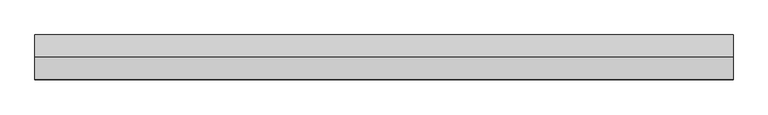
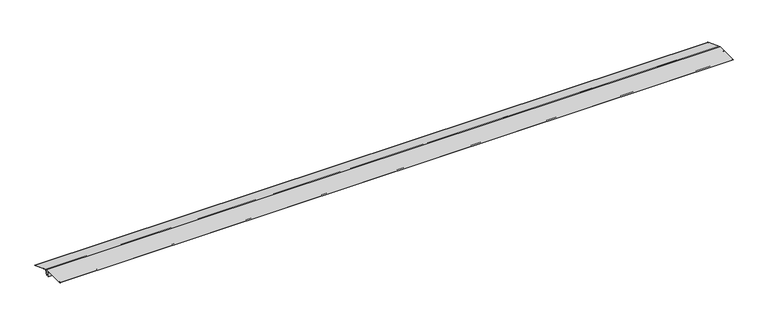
"""IFC4 building model written with IfcOpenShell, lengths in millimetres: proxy geometry, ATELIERS 3S_PARISIENNE 1000_VENTILATED DOUBLE ROOF RIDGE : ATELIERS 3S_PARISIENNE 1000_VENTILATED DOUBLE ROOF RIDGE."""

import ifcopenshell
import ifcopenshell.guid

model = None  # the IFC model being written
_history = None  # IfcOwnerHistory: only IFC2X3 demands one
_inside = {}  # id of a spatial element -> (the spatial element, [elements in it])
_under = {}  # id of a project, library or spatial element -> (it, [spatial elements below it])
_declared = {}  # id of a project -> (the project, [libraries it declares])
_typed = {}  # id of a type object -> (the type object, [elements of that type])
_made_of = {}  # id of a material, layer set ... -> (it, [elements and type objects made of it])


def new_model(schema):
    """Start an empty IFC model of exactly this schema.

    Asked for "IFC4X3", IfcOpenShell would pick the latest addendum, in which some entities
    have other attributes; the version numbers below select the first issue.
    IFC2X3 requires an IfcOwnerHistory on every rooted entity: one is made here for all.
    """
    global model, _history
    if schema == "IFC4X3":
        model = ifcopenshell.file(schema_version=(4, 3, 0, 0))
    else:
        model = ifcopenshell.file(schema=schema)
    _inside.clear()
    _under.clear()
    _declared.clear()
    _typed.clear()
    _made_of.clear()
    _history = None
    if model.schema == "IFC2X3":
        org = make("IfcOrganization", Name="unknown")
        user = make(
            "IfcPersonAndOrganization",
            ThePerson=make("IfcPerson", FamilyName="unknown"),
            TheOrganization=org,
        )
        app = make(
            "IfcApplication",
            ApplicationDeveloper=org,
            Version="unknown",
            ApplicationFullName="unknown",
            ApplicationIdentifier="unknown",
        )
        _history = make(
            "IfcOwnerHistory",
            OwningUser=user,
            OwningApplication=app,
            ChangeAction="ADDED",
            CreationDate=0,
        )
    return model


def make(cls, **values):
    """One entity of the class cls with the attributes given. An attribute that is None is left unset."""
    return model.create_entity(
        cls, **{name: value for name, value in values.items() if value is not None}
    )


def rooted(cls, **values):
    """An entity with a GlobalId (a new one), such as an element, a storey or a relation."""
    return make(cls, GlobalId=ifcopenshell.guid.new(), OwnerHistory=_history, **values)


def si_unit(unit_type, name, prefix=None):
    """IfcSIUnit, for example si_unit("LENGTHUNIT", "METRE", prefix="MILLI")."""
    return make("IfcSIUnit", UnitType=unit_type, Prefix=prefix, Name=name)


def assignment(units):
    """IfcUnitAssignment: the units of a project."""
    return None if units is None else make("IfcUnitAssignment", Units=units)


def point(xyz):
    """IfcCartesianPoint."""
    return None if xyz is None else make("IfcCartesianPoint", Coordinates=xyz)


def direction(xyz):
    """IfcDirection."""
    return None if xyz is None else make("IfcDirection", DirectionRatios=xyz)


def frame(location, z_axis=None, x_axis=None):
    """IfcAxis2Placement3D, a coordinate frame: its origin and axes. An axis left out is left unset."""
    return make(
        "IfcAxis2Placement3D",
        Location=point(location),
        Axis=direction(z_axis),
        RefDirection=direction(x_axis),
    )


def frame_2d(location, x_axis=None):
    """IfcAxis2Placement2D, a coordinate frame in the plane: its origin and x axis."""
    return make(
        "IfcAxis2Placement2D", Location=point(location), RefDirection=direction(x_axis)
    )


def origin():
    """The frame at (0, 0, 0) with its axes left unset."""
    return frame((0.0, 0.0, 0.0))


def place(relative_to, where):
    """IfcLocalPlacement: puts the frame where relative to a parent placement (None: the world)."""
    return make(
        "IfcLocalPlacement", PlacementRelTo=relative_to, RelativePlacement=where
    )


def context(
    kind, dimensions, precision=None, world=None, true_north=None, identifier=None
):
    """IfcGeometricRepresentationContext, for example the 3D "Model" context."""
    return make(
        "IfcGeometricRepresentationContext",
        ContextIdentifier=identifier,
        ContextType=kind,
        CoordinateSpaceDimension=dimensions,
        Precision=precision,
        WorldCoordinateSystem=world,
        TrueNorth=true_north,
    )


def project(units=None, contexts=None):
    """IfcProject with its units and contexts."""
    return rooted(
        "IfcProject",
        Name="project",
        RepresentationContexts=contexts,
        UnitsInContext=assignment(units),
    )


def spatial(cls, under=None, at=None, **own):
    """A site, building, storey or space (cls), placed at a placement, below another one or the project."""
    s = rooted(cls, ObjectPlacement=at, **own)
    if under is not None:
        _under.setdefault(under.id(), (under, []))[1].append(s)
    return s


def polyline(points):
    """IfcPolyline through the points."""
    return make("IfcPolyline", Points=[point(p) for p in points])


def circle_curve(where, radius):
    """IfcCircle in the frame where."""
    return make("IfcCircle", Position=where, Radius=radius)


def trimmed(basis, trim1, trim2, sense, master):
    """IfcTrimmedCurve: the piece of a basis curve between two trims."""
    return make(
        "IfcTrimmedCurve",
        BasisCurve=basis,
        Trim1=trim1,
        Trim2=trim2,
        SenseAgreement=sense,
        MasterRepresentation=master,
    )


def segment(curve, same_sense, transition):
    """IfcCompositeCurveSegment."""
    return make(
        "IfcCompositeCurveSegment",
        Transition=transition,
        SameSense=same_sense,
        ParentCurve=curve,
    )


def composite_curve(segments, self_intersect=None):
    """IfcCompositeCurve: segments joined end to end."""
    return make("IfcCompositeCurve", Segments=segments, SelfIntersect=self_intersect)


def outline(outer, holes=None, kind="AREA"):
    """IfcArbitraryClosedProfileDef: a profile drawn as a closed curve; with holes, ...WithVoids."""
    if holes is None:
        return make("IfcArbitraryClosedProfileDef", ProfileType=kind, OuterCurve=outer)
    return make(
        "IfcArbitraryProfileDefWithVoids",
        ProfileType=kind,
        OuterCurve=outer,
        InnerCurves=holes,
    )


def extrude(swept, where, along, depth):
    """IfcExtrudedAreaSolid: the profile swept, set in the frame where, extruded along a direction by depth."""
    return make(
        "IfcExtrudedAreaSolid",
        SweptArea=swept,
        Position=where,
        ExtrudedDirection=direction(along),
        Depth=depth,
    )


def shape(context_of_items, identifier, shape_type, items):
    """IfcShapeRepresentation: the items that make up one representation, for example the "Body"."""
    return make(
        "IfcShapeRepresentation",
        ContextOfItems=context_of_items,
        RepresentationIdentifier=identifier,
        RepresentationType=shape_type,
        Items=items,
    )


def source(mapping_origin, context_of_items, identifier, shape_type, items):
    """IfcRepresentationMap: a shape defined once, which mapped items show again and again."""
    return make(
        "IfcRepresentationMap",
        MappingOrigin=mapping_origin,
        MappedRepresentation=shape(context_of_items, identifier, shape_type, items),
    )


def transform(
    local_origin,
    x_axis=None,
    y_axis=None,
    z_axis=None,
    scale=None,
    scale2=None,
    scale3=None,
    uniform=True,
):
    """IfcCartesianTransformationOperator3D, or its non-uniform kind. x_axis, y_axis, z_axis: its Axis1, 2, 3."""
    if uniform:
        return make(
            "IfcCartesianTransformationOperator3D",
            Axis1=direction(x_axis),
            Axis2=direction(y_axis),
            LocalOrigin=point(local_origin),
            Scale=scale,
            Axis3=direction(z_axis),
        )
    return make(
        "IfcCartesianTransformationOperator3DnonUniform",
        Axis1=direction(x_axis),
        Axis2=direction(y_axis),
        LocalOrigin=point(local_origin),
        Scale=scale,
        Axis3=direction(z_axis),
        Scale2=scale2,
        Scale3=scale3,
    )


def mapped(mapping_source, mapping_target):
    """IfcMappedItem: shows the shape of a source again, moved by a transform."""
    return make(
        "IfcMappedItem", MappingSource=mapping_source, MappingTarget=mapping_target
    )


def made_of(thing, what):
    """Note that an element or type object is made of a material, layer set ...; save() writes the relation."""
    if what is not None:
        _made_of.setdefault(what.id(), (what, []))[1].append(thing)
    return thing


def element(
    cls,
    number,
    at=None,
    inside=None,
    cuts=None,
    type_object=None,
    material=None,
    context=None,
    identifier="Body",
    shape_type=None,
    held_by="IfcProductDefinitionShape",
    body=None,
    shapes=None,
    **own,
):
    """One element of the class cls, such as IfcWall. Its Tag is "e" and its number.

    at: its placement. inside: the storey or other place that contains it. cuts: it is an
    opening in that element (IfcRelVoidsElement). A single representation is given by context,
    identifier, shape_type and body (its items); several are given by shapes. held_by: the class
    of the entity that holds the representations. save() writes the other relations.
    """
    e = rooted(cls, Tag="e%d" % number, ObjectPlacement=at, **own)
    if body is not None:
        shapes = [shape(context, identifier, shape_type, body)]
    if shapes is not None:
        e.Representation = make(held_by, Representations=shapes)
    if inside is not None:
        _inside.setdefault(inside.id(), (inside, []))[1].append(e)
    if cuts is not None:
        rooted(
            "IfcRelVoidsElement", RelatingBuildingElement=cuts, RelatedOpeningElement=e
        )
    if type_object is not None:
        _typed.setdefault(type_object.id(), (type_object, []))[1].append(e)
    return made_of(e, material)


def aggregate(whole, parts):
    """IfcRelAggregates: a whole, such as a stair, and the parts it consists of."""
    return rooted("IfcRelAggregates", RelatingObject=whole, RelatedObjects=parts)


def save(model, path):
    """Write the relations noted so far, then the file.

    IfcRelAggregates (storeys below a building ...), IfcRelContainedInSpatialStructure (elements
    in a storey), IfcRelDefinesByType, IfcRelAssociatesMaterial and IfcRelDeclares: one each for
    every whole, place, type object, material and project.
    """
    for whole, parts in _under.values():
        aggregate(whole, parts)
    for where, things in _inside.values():
        rooted(
            "IfcRelContainedInSpatialStructure",
            RelatedElements=things,
            RelatingStructure=where,
        )
    for kind, things in _typed.values():
        rooted("IfcRelDefinesByType", RelatedObjects=things, RelatingType=kind)
    for what, things in _made_of.values():
        rooted("IfcRelAssociatesMaterial", RelatedObjects=things, RelatingMaterial=what)
    for by, libraries in _declared.values():
        rooted("IfcRelDeclares", RelatingContext=by, RelatedDefinitions=libraries)
    model.write(path)


def generic_models_c0c02244(model_context):
    return source(origin(), model_context, "Body", "SweptSolid", [
        extrude(outline(polyline([(-21.2734211, -45.0), (-22.2734211, -45.0), (-22.2734211, -1.0), (-61.2734211, -1.0), (-61.2734211, 0.0), (-21.2734211, 0.0), (-21.2734211, -45.0)])), frame((0.0, 0.0, 0.0), z_axis=(1.0, 0.0, 0.0), x_axis=(0.0, 1.0, 0.0)), (0.0, 0.0, 1.0), 5661.0),
        extrude(outline(polyline([(4.5995703, -49.5621065), (19.9904768, -7.2759385), (57.5781816, -20.9567443), (57.2361615, -21.8964369), (20.5881493, -8.5576513), (5.539263, -49.9041266), (4.5995703, -49.5621065)])), frame((0.0, 0.0, 0.0), z_axis=(1.0, 0.0, 0.0), x_axis=(0.0, 1.0, 0.0)), (0.0, 0.0, 1.0), 5661.0),
        extrude(outline(composite_curve([segment(polyline([(-185.823673, 1.0), (0.176327, 1.0), (174.9591544, -62.6157467)]), True, "CONTINUOUS"), segment(trimmed(circle_curve(frame_2d((174.6171343, -63.5554393)), 1.0), [point((174.9591544, -62.6157467))], [point((174.2751142, -64.4951319))], False, "CARTESIAN"), True, "CONTINUOUS"), segment(polyline([(174.2751142, -64.4951319), (162.0591101, -60.04887)]), True, "CONTINUOUS"), segment(trimmed(circle_curve(frame_2d((162.2301202, -59.5790237)), 0.5), [point((162.0591101, -60.04887))], [point((162.4011302, -59.1091774))], False, "CARTESIAN"), True, "CONTINUOUS"), segment(polyline([(162.4011302, -59.1091774), (0.0, 0.0), (-172.823673, 0.0)]), True, "CONTINUOUS"), segment(trimmed(circle_curve(frame_2d((-172.823673, -0.5)), 0.5), [point((-172.823673, 0.0))], [point((-172.823673, -1.0))], False, "CARTESIAN"), True, "CONTINUOUS"), segment(polyline([(-172.823673, -1.0), (-185.823673, -1.0)]), True, "CONTINUOUS"), segment(trimmed(circle_curve(frame_2d((-185.823673, 0.0)), 1.0), [point((-185.823673, -1.0))], [point((-185.823673, 1.0))], False, "CARTESIAN"), True, "CONTINUOUS")], self_intersect=False)), frame((0.0, 0.0, 0.0), z_axis=(1.0, 0.0, 0.0), x_axis=(0.0, 1.0, 0.0)), (0.0, 0.0, 1.0), 5661.0),
    ])


if __name__ == "__main__":
    model = new_model("IFC4")
    model_context = context("Model", 3, world=origin())
    ifc_project = project(units=[si_unit("LENGTHUNIT", "METRE", prefix="MILLI")], contexts=[model_context])
    site = spatial("IfcSite", under=ifc_project)
    building = spatial("IfcBuilding", under=site)
    placement = place(None, origin())
    generic_models_shape = generic_models_c0c02244(model_context)
    element("IfcBuildingElementProxy", 1, Name="ATELIERS 3S_PARISIENNE 1000_VENTILATED DOUBLE ROOF RIDGE : ATELIERS 3S_PARISIENNE 1000_VENTILATED DOUBLE ROOF RIDGE", ObjectType="ATELIERS 3S_PARISIENNE 1000_VENTILATED DOUBLE ROOF RIDGE : ATELIERS 3S_PARISIENNE 1000_VENTILATED DOUBLE ROOF RIDGE", at=placement, inside=building, context=model_context, shape_type="MappedRepresentation", body=[
        mapped(generic_models_shape, transform((0.0, 0.0, 0.0), x_axis=(1.0, 0.0, 0.0), y_axis=(0.0, 1.0, 0.0), z_axis=(0.0, 0.0, 1.0))),
    ])
    save(model, "model.ifc")
